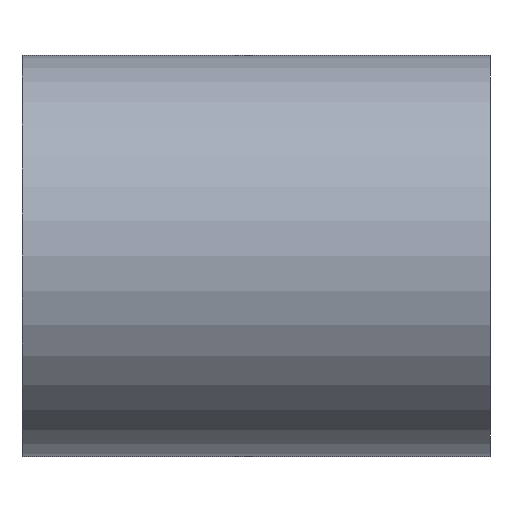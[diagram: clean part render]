
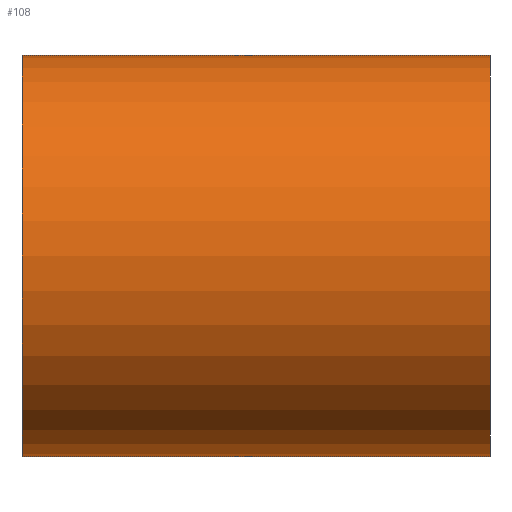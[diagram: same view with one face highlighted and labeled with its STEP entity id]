
A CAD part, front view. The second image highlights one B-rep face of the part: STEP entity #108.
In plain terms, the highlighted cylindrical face has radius 360 mm (diameter 720 mm), a partial arc.
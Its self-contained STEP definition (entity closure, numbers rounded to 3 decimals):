
#108=ADVANCED_FACE('',(#212),#213,.T.);
#212=FACE_OUTER_BOUND('',#335,.T.);
#213=CYLINDRICAL_SURFACE('',#336,360.0);
#335=EDGE_LOOP('',(#587,#588,#589,#590));
#336=AXIS2_PLACEMENT_3D('',#591,#592,#593);
#587=ORIENTED_EDGE('',*,*,#659,.T.);
#588=ORIENTED_EDGE('',*,*,#768,.F.);
#589=ORIENTED_EDGE('',*,*,#661,.T.);
#590=ORIENTED_EDGE('',*,*,#769,.F.);
#591=CARTESIAN_POINT('',(0.0,0.0,0.0));
#592=DIRECTION('',(1.0,0.0,0.0));
#593=DIRECTION('',(0.0,0.0,-1.0));
#659=EDGE_CURVE('',#773,#774,#775,.T.);
#661=EDGE_CURVE('',#778,#776,#779,.T.);
#768=EDGE_CURVE('',#778,#774,#938,.T.);
#769=EDGE_CURVE('',#773,#776,#939,.T.);
#773=VERTEX_POINT('',#943);
#774=VERTEX_POINT('',#944);
#775=LINE('',#945,#946);
#776=VERTEX_POINT('',#947);
#778=VERTEX_POINT('',#949);
#779=LINE('',#950,#951);
#938=CIRCLE('',#1136,360.0);
#939=CIRCLE('',#1137,360.0);
#943=CARTESIAN_POINT('',(-420.0,0.0,-360.0));
#944=CARTESIAN_POINT('',(420.0,0.0,-360.0));
#945=CARTESIAN_POINT('',(0.0,0.,-360.0));
#946=VECTOR('',#1140,1.0);
#947=CARTESIAN_POINT('',(-420.0,0.,360.0));
#949=CARTESIAN_POINT('',(420.0,0.,360.0));
#950=CARTESIAN_POINT('',(0.0,0.,360.0));
#951=VECTOR('',#1144,1.0);
#1136=AXIS2_PLACEMENT_3D('',#1330,#1331,#1332);
#1137=AXIS2_PLACEMENT_3D('',#1333,#1334,#1335);
#1140=DIRECTION('',(1.0,0.0,0.0));
#1144=DIRECTION('',(-1.0,-0.0,-0.0));
#1330=CARTESIAN_POINT('',(420.0,0.0,0.0));
#1331=DIRECTION('',(1.0,0.0,0.0));
#1332=DIRECTION('',(0.0,0.0,-1.0));
#1333=CARTESIAN_POINT('',(-420.0,0.0,0.0));
#1334=DIRECTION('',(-1.0,0.0,0.0));
#1335=DIRECTION('',(0.0,0.0,-1.0));
